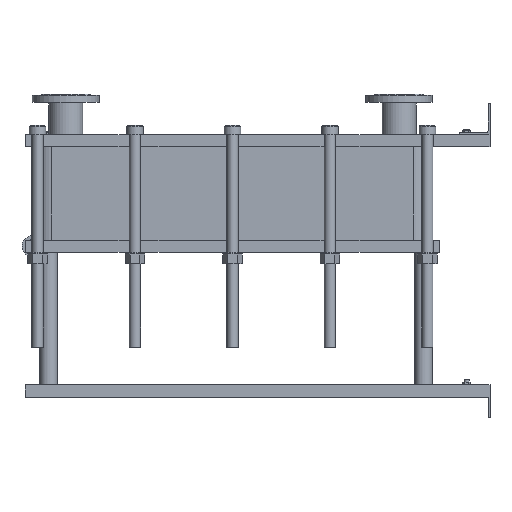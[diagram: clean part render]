
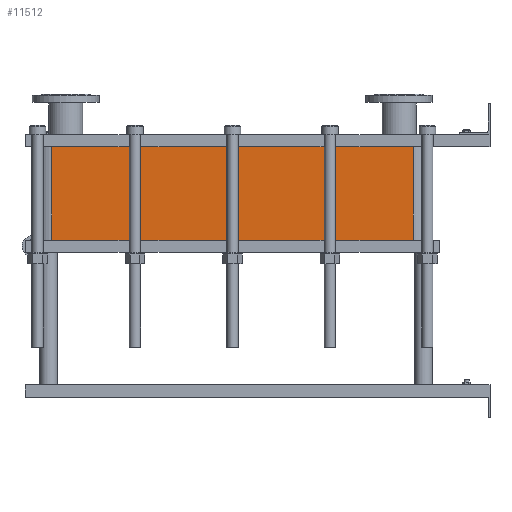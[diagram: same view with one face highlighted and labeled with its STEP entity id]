
A CAD part, left-side view. The second image highlights one B-rep face of the part: STEP entity #11512.
In plain terms, the highlighted planar face has unit normal (-1, 0, 0).
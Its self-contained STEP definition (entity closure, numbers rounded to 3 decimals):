
#1129=LINE('',#23232,#2102);
#1130=LINE('',#23236,#2103);
#1131=LINE('',#23238,#2104);
#1132=LINE('',#23239,#2105);
#2102=VECTOR('',#15887,10.);
#2103=VECTOR('',#15892,10.);
#2104=VECTOR('',#15893,10.);
#2105=VECTOR('',#15894,10.);
#3267=FACE_OUTER_BOUND('',#4093,.T.);
#4093=EDGE_LOOP('',(#10103,#10104,#10105,#10106));
#5642=VERTEX_POINT('',#23229);
#5643=VERTEX_POINT('',#23231);
#5644=VERTEX_POINT('',#23235);
#5645=VERTEX_POINT('',#23237);
#7159=EDGE_CURVE('',#5643,#5642,#1129,.T.);
#7161=EDGE_CURVE('',#5642,#5644,#1130,.T.);
#7162=EDGE_CURVE('',#5645,#5644,#1131,.T.);
#7163=EDGE_CURVE('',#5645,#5643,#1132,.T.);
#10103=ORIENTED_EDGE('',*,*,#7161,.T.);
#10104=ORIENTED_EDGE('',*,*,#7162,.F.);
#10105=ORIENTED_EDGE('',*,*,#7163,.T.);
#10106=ORIENTED_EDGE('',*,*,#7159,.T.);
#10857=PLANE('',#12751);
#11512=ADVANCED_FACE('',(#3267),#10857,.T.);
#12751=AXIS2_PLACEMENT_3D('',#23234,#15890,#15891);
#15887=DIRECTION('',(0.,0.,-1.));
#15890=DIRECTION('center_axis',(-1.,0.,0.));
#15891=DIRECTION('ref_axis',(0.,1.,0.));
#15892=DIRECTION('',(0.,-1.,0.));
#15893=DIRECTION('',(0.,0.,-1.));
#15894=DIRECTION('',(0.,1.,0.));
#23229=CARTESIAN_POINT('',(-200.,1414.,-300.15));
#23231=CARTESIAN_POINT('',(-200.,1414.,0.));
#23232=CARTESIAN_POINT('',(-200.,1414.,0.));
#23234=CARTESIAN_POINT('Origin',(-200.,248.,0.));
#23235=CARTESIAN_POINT('',(-200.,248.,-300.15));
#23236=CARTESIAN_POINT('',(-200.,539.5,-300.15));
#23237=CARTESIAN_POINT('',(-200.,248.,0.));
#23238=CARTESIAN_POINT('',(-200.,248.,0.));
#23239=CARTESIAN_POINT('',(-200.,248.,0.));
